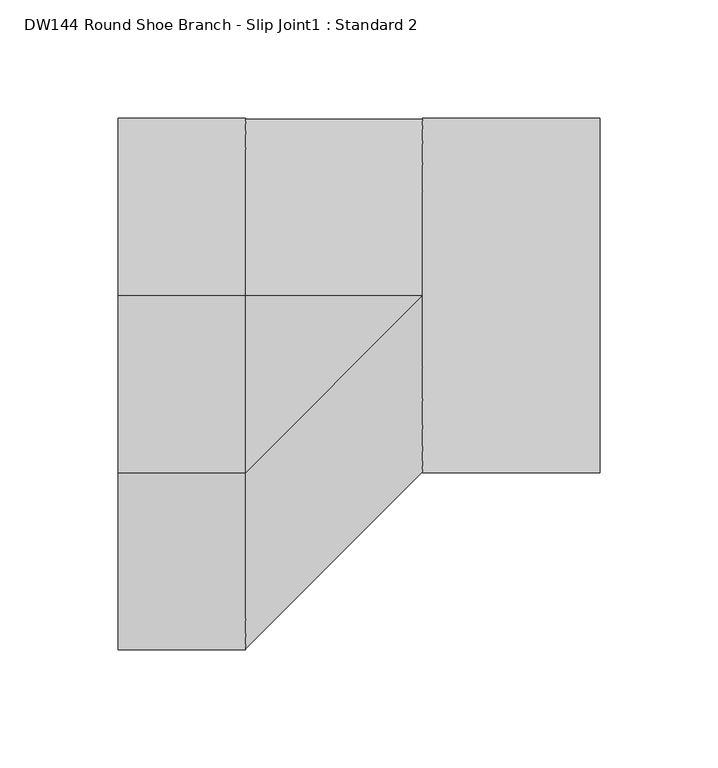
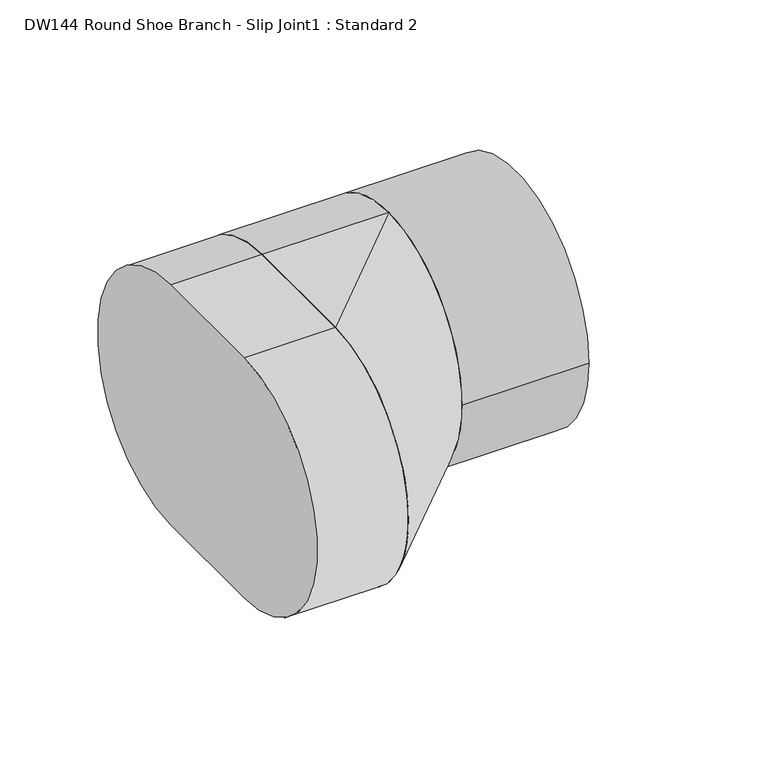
"""IFC4 building model written with IfcOpenShell, lengths in millimetres: duct fitting geometry, DW144 Round Shoe Branch - Slip Joint1 : Standard 2."""

import ifcopenshell
import ifcopenshell.guid

model = None  # the IFC model being written
_history = None  # IfcOwnerHistory: only IFC2X3 demands one
_inside = {}  # id of a spatial element -> (the spatial element, [elements in it])
_under = {}  # id of a project, library or spatial element -> (it, [spatial elements below it])
_declared = {}  # id of a project -> (the project, [libraries it declares])
_typed = {}  # id of a type object -> (the type object, [elements of that type])
_made_of = {}  # id of a material, layer set ... -> (it, [elements and type objects made of it])


def new_model(schema):
    """Start an empty IFC model of exactly this schema.

    Asked for "IFC4X3", IfcOpenShell would pick the latest addendum, in which some entities
    have other attributes; the version numbers below select the first issue.
    IFC2X3 requires an IfcOwnerHistory on every rooted entity: one is made here for all.
    """
    global model, _history
    if schema == "IFC4X3":
        model = ifcopenshell.file(schema_version=(4, 3, 0, 0))
    else:
        model = ifcopenshell.file(schema=schema)
    _inside.clear()
    _under.clear()
    _declared.clear()
    _typed.clear()
    _made_of.clear()
    _history = None
    if model.schema == "IFC2X3":
        org = make("IfcOrganization", Name="unknown")
        user = make(
            "IfcPersonAndOrganization",
            ThePerson=make("IfcPerson", FamilyName="unknown"),
            TheOrganization=org,
        )
        app = make(
            "IfcApplication",
            ApplicationDeveloper=org,
            Version="unknown",
            ApplicationFullName="unknown",
            ApplicationIdentifier="unknown",
        )
        _history = make(
            "IfcOwnerHistory",
            OwningUser=user,
            OwningApplication=app,
            ChangeAction="ADDED",
            CreationDate=0,
        )
    return model


def make(cls, **values):
    """One entity of the class cls with the attributes given. An attribute that is None is left unset."""
    return model.create_entity(
        cls, **{name: value for name, value in values.items() if value is not None}
    )


def rooted(cls, **values):
    """An entity with a GlobalId (a new one), such as an element, a storey or a relation."""
    return make(cls, GlobalId=ifcopenshell.guid.new(), OwnerHistory=_history, **values)


def si_unit(unit_type, name, prefix=None):
    """IfcSIUnit, for example si_unit("LENGTHUNIT", "METRE", prefix="MILLI")."""
    return make("IfcSIUnit", UnitType=unit_type, Prefix=prefix, Name=name)


def assignment(units):
    """IfcUnitAssignment: the units of a project."""
    return None if units is None else make("IfcUnitAssignment", Units=units)


def point(xyz):
    """IfcCartesianPoint."""
    return None if xyz is None else make("IfcCartesianPoint", Coordinates=xyz)


def direction(xyz):
    """IfcDirection."""
    return None if xyz is None else make("IfcDirection", DirectionRatios=xyz)


def frame(location, z_axis=None, x_axis=None):
    """IfcAxis2Placement3D, a coordinate frame: its origin and axes. An axis left out is left unset."""
    return make(
        "IfcAxis2Placement3D",
        Location=point(location),
        Axis=direction(z_axis),
        RefDirection=direction(x_axis),
    )


def frame_2d(location, x_axis=None):
    """IfcAxis2Placement2D, a coordinate frame in the plane: its origin and x axis."""
    return make(
        "IfcAxis2Placement2D", Location=point(location), RefDirection=direction(x_axis)
    )


def origin():
    """The frame at (0, 0, 0) with its axes left unset."""
    return frame((0.0, 0.0, 0.0))


def origin_2d():
    """The frame at (0, 0) in the plane with its x axis left unset."""
    return frame_2d((0.0, 0.0))


def place(relative_to, where):
    """IfcLocalPlacement: puts the frame where relative to a parent placement (None: the world)."""
    return make(
        "IfcLocalPlacement", PlacementRelTo=relative_to, RelativePlacement=where
    )


def context(
    kind, dimensions, precision=None, world=None, true_north=None, identifier=None
):
    """IfcGeometricRepresentationContext, for example the 3D "Model" context."""
    return make(
        "IfcGeometricRepresentationContext",
        ContextIdentifier=identifier,
        ContextType=kind,
        CoordinateSpaceDimension=dimensions,
        Precision=precision,
        WorldCoordinateSystem=world,
        TrueNorth=true_north,
    )


def project(units=None, contexts=None):
    """IfcProject with its units and contexts."""
    return rooted(
        "IfcProject",
        Name="project",
        RepresentationContexts=contexts,
        UnitsInContext=assignment(units),
    )


def spatial(cls, under=None, at=None, **own):
    """A site, building, storey or space (cls), placed at a placement, below another one or the project."""
    s = rooted(cls, ObjectPlacement=at, **own)
    if under is not None:
        _under.setdefault(under.id(), (under, []))[1].append(s)
    return s


def polyline(points):
    """IfcPolyline through the points."""
    return make("IfcPolyline", Points=[point(p) for p in points])


def circle_curve(where, radius):
    """IfcCircle in the frame where."""
    return make("IfcCircle", Position=where, Radius=radius)


def trimmed(basis, trim1, trim2, sense, master):
    """IfcTrimmedCurve: the piece of a basis curve between two trims."""
    return make(
        "IfcTrimmedCurve",
        BasisCurve=basis,
        Trim1=trim1,
        Trim2=trim2,
        SenseAgreement=sense,
        MasterRepresentation=master,
    )


def segment(curve, same_sense, transition):
    """IfcCompositeCurveSegment."""
    return make(
        "IfcCompositeCurveSegment",
        Transition=transition,
        SameSense=same_sense,
        ParentCurve=curve,
    )


def composite_curve(segments, self_intersect=None):
    """IfcCompositeCurve: segments joined end to end."""
    return make("IfcCompositeCurve", Segments=segments, SelfIntersect=self_intersect)


def outline(outer, holes=None, kind="AREA"):
    """IfcArbitraryClosedProfileDef: a profile drawn as a closed curve; with holes, ...WithVoids."""
    if holes is None:
        return make("IfcArbitraryClosedProfileDef", ProfileType=kind, OuterCurve=outer)
    return make(
        "IfcArbitraryProfileDefWithVoids",
        ProfileType=kind,
        OuterCurve=outer,
        InnerCurves=holes,
    )


def extrude(swept, where, along, depth):
    """IfcExtrudedAreaSolid: the profile swept, set in the frame where, extruded along a direction by depth."""
    return make(
        "IfcExtrudedAreaSolid",
        SweptArea=swept,
        Position=where,
        ExtrudedDirection=direction(along),
        Depth=depth,
    )


def shape(context_of_items, identifier, shape_type, items):
    """IfcShapeRepresentation: the items that make up one representation, for example the "Body"."""
    return make(
        "IfcShapeRepresentation",
        ContextOfItems=context_of_items,
        RepresentationIdentifier=identifier,
        RepresentationType=shape_type,
        Items=items,
    )


def source(mapping_origin, context_of_items, identifier, shape_type, items):
    """IfcRepresentationMap: a shape defined once, which mapped items show again and again."""
    return make(
        "IfcRepresentationMap",
        MappingOrigin=mapping_origin,
        MappedRepresentation=shape(context_of_items, identifier, shape_type, items),
    )


def transform(
    local_origin,
    x_axis=None,
    y_axis=None,
    z_axis=None,
    scale=None,
    scale2=None,
    scale3=None,
    uniform=True,
):
    """IfcCartesianTransformationOperator3D, or its non-uniform kind. x_axis, y_axis, z_axis: its Axis1, 2, 3."""
    if uniform:
        return make(
            "IfcCartesianTransformationOperator3D",
            Axis1=direction(x_axis),
            Axis2=direction(y_axis),
            LocalOrigin=point(local_origin),
            Scale=scale,
            Axis3=direction(z_axis),
        )
    return make(
        "IfcCartesianTransformationOperator3DnonUniform",
        Axis1=direction(x_axis),
        Axis2=direction(y_axis),
        LocalOrigin=point(local_origin),
        Scale=scale,
        Axis3=direction(z_axis),
        Scale2=scale2,
        Scale3=scale3,
    )


def mapped(mapping_source, mapping_target):
    """IfcMappedItem: shows the shape of a source again, moved by a transform."""
    return make(
        "IfcMappedItem", MappingSource=mapping_source, MappingTarget=mapping_target
    )


def made_of(thing, what):
    """Note that an element or type object is made of a material, layer set ...; save() writes the relation."""
    if what is not None:
        _made_of.setdefault(what.id(), (what, []))[1].append(thing)
    return thing


def element(
    cls,
    number,
    at=None,
    inside=None,
    cuts=None,
    type_object=None,
    material=None,
    context=None,
    identifier="Body",
    shape_type=None,
    held_by="IfcProductDefinitionShape",
    body=None,
    shapes=None,
    **own,
):
    """One element of the class cls, such as IfcWall. Its Tag is "e" and its number.

    at: its placement. inside: the storey or other place that contains it. cuts: it is an
    opening in that element (IfcRelVoidsElement). A single representation is given by context,
    identifier, shape_type and body (its items); several are given by shapes. held_by: the class
    of the entity that holds the representations. save() writes the other relations.
    """
    e = rooted(cls, Tag="e%d" % number, ObjectPlacement=at, **own)
    if body is not None:
        shapes = [shape(context, identifier, shape_type, body)]
    if shapes is not None:
        e.Representation = make(held_by, Representations=shapes)
    if inside is not None:
        _inside.setdefault(inside.id(), (inside, []))[1].append(e)
    if cuts is not None:
        rooted(
            "IfcRelVoidsElement", RelatingBuildingElement=cuts, RelatedOpeningElement=e
        )
    if type_object is not None:
        _typed.setdefault(type_object.id(), (type_object, []))[1].append(e)
    return made_of(e, material)


def aggregate(whole, parts):
    """IfcRelAggregates: a whole, such as a stair, and the parts it consists of."""
    return rooted("IfcRelAggregates", RelatingObject=whole, RelatedObjects=parts)


def save(model, path):
    """Write the relations noted so far, then the file.

    IfcRelAggregates (storeys below a building ...), IfcRelContainedInSpatialStructure (elements
    in a storey), IfcRelDefinesByType, IfcRelAssociatesMaterial and IfcRelDeclares: one each for
    every whole, place, type object, material and project.
    """
    for whole, parts in _under.values():
        aggregate(whole, parts)
    for where, things in _inside.values():
        rooted(
            "IfcRelContainedInSpatialStructure",
            RelatedElements=things,
            RelatingStructure=where,
        )
    for kind, things in _typed.values():
        rooted("IfcRelDefinesByType", RelatedObjects=things, RelatingType=kind)
    for what, things in _made_of.values():
        rooted("IfcRelAssociatesMaterial", RelatedObjects=things, RelatingMaterial=what)
    for by, libraries in _declared.values():
        rooted("IfcRelDeclares", RelatingContext=by, RelatedDefinitions=libraries)
    model.write(path)


def plane_surface(at):
    """IfcPlane: the flat surface through the origin of the frame at, square to its z axis."""
    return make("IfcPlane", Position=at)


def cylinder_surface(at, radius):
    """IfcCylindricalSurface: all points at the distance radius from the z axis of the frame at."""
    return make("IfcCylindricalSurface", Position=at, Radius=radius)


def extruded_surface(curve, direction_of_extrusion, depth):
    """IfcSurfaceOfLinearExtrusion: the curve pushed along a direction by depth."""
    return make(
        "IfcSurfaceOfLinearExtrusion",
        SweptCurve=make("IfcArbitraryOpenProfileDef", ProfileType="CURVE", Curve=curve),
        ExtrudedDirection=direction(direction_of_extrusion),
        Depth=depth,
    )


def advanced_brep(points, edges, surfaces, faces):
    """IfcAdvancedBrep: a solid bounded by faces that lie on surfaces and meet in shared edges.

    An edge is (start, end): straight between two places in points (the first is 0);
    or (start, end, curve); or (start, end, curve, False) where it runs against its curve.
    A face is (place in surfaces, loops), or (place, loops, False) where it looks against
    its surface's normal. A loop lists edges by number (the first is 1), with a minus sign
    where the edge is run from its end to its start. The first loop is the outer one.
    """
    corners = [point(p) for p in points]
    vertices = [make("IfcVertexPoint", VertexGeometry=c) for c in corners]
    made = []
    for start, end, *more in edges:
        made.append(
            make(
                "IfcEdgeCurve",
                EdgeStart=vertices[start],
                EdgeEnd=vertices[end],
                EdgeGeometry=more[0] if more else make("IfcPolyline", Points=[corners[start], corners[end]]),
                SameSense=more[1] if len(more) > 1 else True,
            )
        )
    hull = []
    for where, loops, *sense in faces:
        bounds = []
        for j, loop in enumerate(loops):
            ring = [make("IfcOrientedEdge", EdgeElement=made[abs(k) - 1], Orientation=k > 0) for k in loop]
            bounds.append(
                make(
                    "IfcFaceOuterBound" if j == 0 else "IfcFaceBound",
                    Bound=make("IfcEdgeLoop", EdgeList=ring),
                    Orientation=True,
                )
            )
        hull.append(make("IfcAdvancedFace", Bounds=bounds, FaceSurface=surfaces[where], SameSense=sense[0] if sense else True))
    return make("IfcAdvancedBrep", Outer=make("IfcClosedShell", CfsFaces=hull))


def dw144_round_shoe_branch_slip_joint1_standard_2_ebc7e2f0(model_context):
    return source(origin(), model_context, "Body", "SolidModel", [
        extrude(outline(composite_curve([segment(trimmed(circle_curve(origin_2d(), 75.0), [point((-75.0, 0.0))], [point((75.0, 0.0))], False, "CARTESIAN"), True, "CONTINUOUS"), segment(trimmed(circle_curve(origin_2d(), 75.0), [point((75.0, 0.0))], [point((-75.0, 0.0))], False, "CARTESIAN"), True, "CONTINUOUS")], self_intersect=False)), frame((75.0, 0.0, 0.0), z_axis=(1.0, 0.0, 0.0), x_axis=(0.0, 1.0, 0.0)), (0.0, 0.0, 1.0), 75.0),
        advanced_brep(
        [(75.0, 0.0, -75.0), (75.0, 0.0, 75.0), (0.0, 0.0, -75.0), (0.0, -75.0, -75.0), (0.0, -75.0, 75.0), (0.0, 0.0, 75.0)],
        [
            (0, 1, circle_curve(frame((75.0, 0.0, 0.0), z_axis=(1.0, 0.0, 0.0), x_axis=(0.0, 1.0, 0.0)), 75.0)),
            (1, 0, circle_curve(frame((75.0, 0.0, 0.0), z_axis=(1.0, 0.0, 0.0), x_axis=(0.0, 1.0, 0.0)), 75.0)),
            (2, 3),
            (3, 4, circle_curve(frame((0.0, -75.0, 0.0), z_axis=(-1.0, 0.0, 0.0), x_axis=(0.0, 1.0, 0.0)), 75.0)),
            (4, 5),
            (5, 2, circle_curve(frame((0.0, 0.0, 0.0), z_axis=(-1.0, 0.0, 0.0), x_axis=(0.0, 1.0, 0.0)), 75.0)),
            (5, 1),
            (0, 2),
            (4, 1),
            (3, 0),
        ],
        [
            plane_surface(frame((75.0, 0.0, 0.0), z_axis=(1.0, 0.0, 0.0), x_axis=(0.0, 1.0, 0.0))),
            plane_surface(frame((0.0, -37.5, 0.0), z_axis=(-1.0, 0.0, 0.0), x_axis=(0.0, 1.0, 0.0))),
            cylinder_surface(frame((0.0, 0.0, 0.0), z_axis=(1.0, 0.0, 0.0), x_axis=(0.0, 1.0, 0.0)), 75.0),
            plane_surface(frame((0.0, -37.5, 75.0), z_axis=(0.0, 0.0, 1.0), x_axis=(0.0, -1.0, 0.0))),
            extruded_surface(trimmed(circle_curve(frame((0.0, -75.0, 0.0), z_axis=(1.0, 0.0, 0.0), x_axis=(0.0, 1.0, 0.0)), 75.0), [point((0.0, -75.0, 75.0))], [point((0.0, -75.0, -75.0))], True, "CARTESIAN"), (75.0, 75.0, 0.0), 106.06601717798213),
            plane_surface(frame((0.0, -37.5, -75.0), z_axis=(0.0, 0.0, -1.0), x_axis=(0.0, 1.0, 0.0))),
        ],
        [
            (0, [[1, 2]]),
            (1, [[3, 4, 5, 6]]),
            (2, [[-6, 7, -1, 8]]),
            (3, [[-5, 9, -7]]),
            (4, [[-4, 10, -2, -9]]),
            (5, [[-3, -8, -10]]),
        ],
    ),
        extrude(outline(composite_curve([segment(polyline([(0.0, -75.0), (-75.0, -75.0)]), True, "CONTINUOUS"), segment(trimmed(circle_curve(frame_2d((-75.0, 0.0)), 75.0), [point((-75.0, -75.0))], [point((-75.0, 75.0))], False, "CARTESIAN"), True, "CONTINUOUS"), segment(polyline([(-75.0, 75.0), (0.0, 75.0)]), True, "CONTINUOUS"), segment(trimmed(circle_curve(origin_2d(), 75.0), [point((0.0, 75.0))], [point((0.0, -75.0))], False, "CARTESIAN"), True, "CONTINUOUS")], self_intersect=False)), frame((-54.0035687, 0.0, 0.0), z_axis=(1.0, 0.0, 0.0), x_axis=(0.0, 1.0, 0.0)), (0.0, 0.0, 1.0), 54.0035687),
    ])


if __name__ == "__main__":
    model = new_model("IFC4")
    model_context = context("Model", 3, world=origin())
    ifc_project = project(units=[si_unit("LENGTHUNIT", "METRE", prefix="MILLI")], contexts=[model_context])
    site = spatial("IfcSite", under=ifc_project)
    building = spatial("IfcBuilding", under=site)
    placement = place(None, origin())
    dw144_round_shoe_branch_slip_joint1_standard_2_shape = dw144_round_shoe_branch_slip_joint1_standard_2_ebc7e2f0(model_context)
    element("IfcDuctFitting", 1, ObjectType="DW144 Round Shoe Branch - Slip Joint1 : Standard 2", at=placement, inside=building, context=model_context, shape_type="MappedRepresentation", body=[
        mapped(dw144_round_shoe_branch_slip_joint1_standard_2_shape, transform((0.0, 0.0, 0.0), x_axis=(1.0, 0.0, 0.0), y_axis=(0.0, 1.0, 0.0), z_axis=(0.0, 0.0, 1.0))),
    ])
    save(model, "model.ifc")
